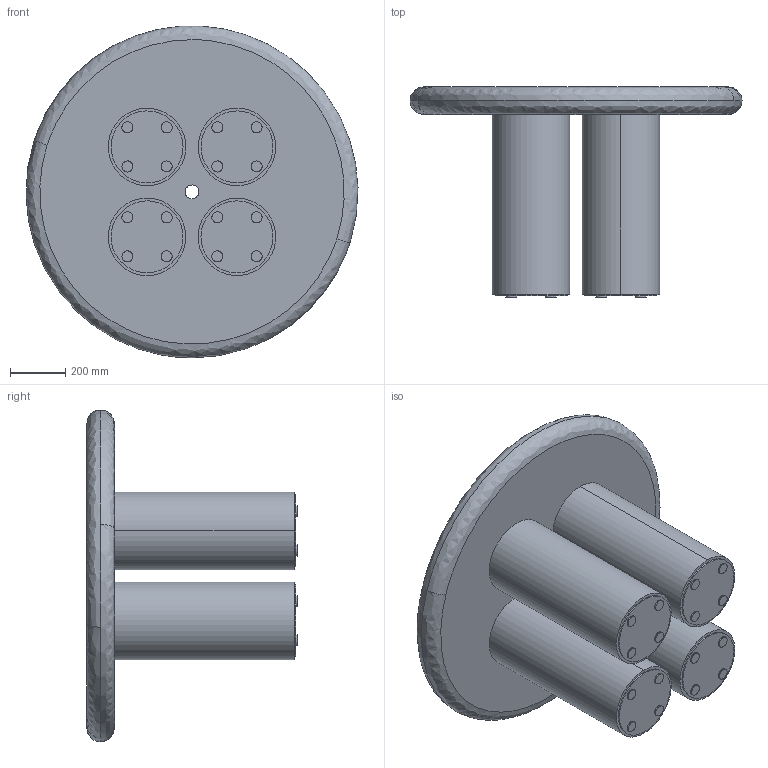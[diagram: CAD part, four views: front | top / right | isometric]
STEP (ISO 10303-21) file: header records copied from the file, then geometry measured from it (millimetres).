
FILE_DESCRIPTION(/* description */ (''),/* implementation_level */ '2;1');
FILE_NAME(/* name */ '1200 Round',/* time_stamp */ '2022-07-14T15:30:45+01:00',/* author */ (''),/* organization */ (''),/* preprocessor_version */ 'ST-DEVELOPER v16.5',/* originating_system */ '',/* authorisation */ '');
FILE_SCHEMA (('AUTOMOTIVE_DESIGN'));
Length unit declared in the file: millimetre
Products named in the file (1): Document
Bounding box: 1199.61 x 760 x 1199.12 mm (x, y, z)
Volume: 270921913.9 mm3; surface area: 5302518.5 mm2
Topology: 5 solids, 5 shells, 84 faces, 165 edges, 111 vertices
Faces by surface type: bspline 54, plane 30
Entity records: 2478 total; most frequent: CARTESIAN_POINT 1358, ORIENTED_EDGE 330, EDGE_CURVE 165, VERTEX_POINT 111, EDGE_LOOP 106, ADVANCED_FACE 84, FACE_OUTER_BOUND 84, B_SPLINE_CURVE_WITH_KNOTS 50
